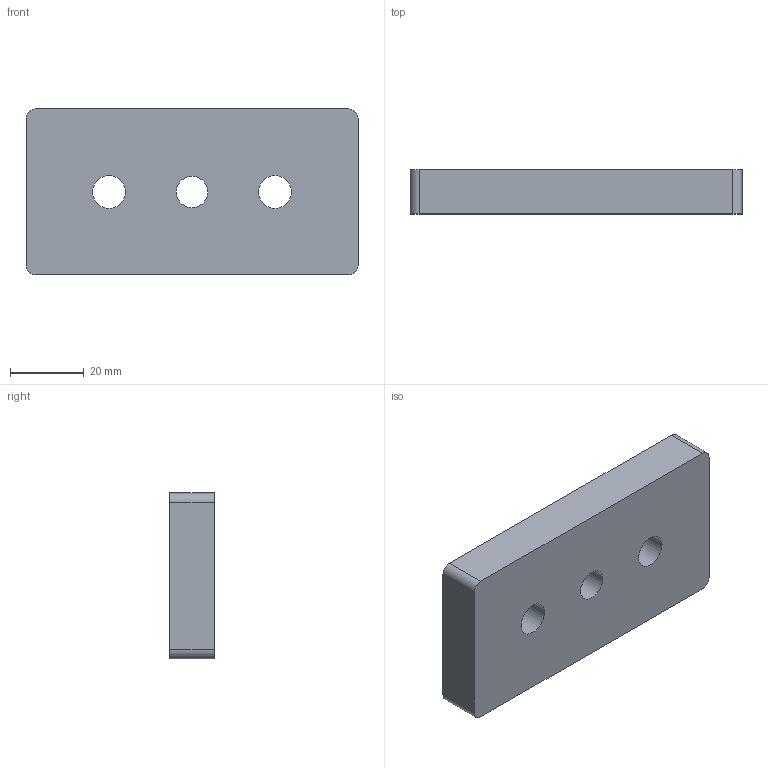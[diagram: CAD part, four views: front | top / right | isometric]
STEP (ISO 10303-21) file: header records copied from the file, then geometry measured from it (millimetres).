
FILE_DESCRIPTION(/* description */ ('STEP AP203'),/* implementation_level */ '2;1');
FILE_NAME(/* name */ 'C:\Users\Stefan.Nesic\Desktop\01010STEP\000Verifica\CORRETTI\MPT45-90M10.stp',/* time_stamp */ '2022-07-11T16:48:14+02:00',/* author */ (''),/* organization */ (''),/* preprocessor_version */ 'ST-DEVELOPER v18.1',/* originating_system */ 'Autodesk Inventor 2021',/* authorisation */ '');
FILE_SCHEMA (('AUTOMOTIVE_DESIGN { 1 0 10303 214 3 1 1 }'));
Length unit declared in the file: millimetre
Products named in the file (1): MPT45-90M10
Bounding box: 90 x 12 x 45 mm (x, y, z)
Volume: 45453.1 mm3; surface area: 12064.3 mm2
Topology: 1 solids, 1 shells, 17 faces, 39 edges, 26 vertices
Faces by surface type: cylinder 9, plane 8
Full cylindrical faces by diameter (mm): 8.5 x1, 9 x2, 13.5 x2
Entity records: 544 total; most frequent: DIRECTION 93, CARTESIAN_POINT 83, ORIENTED_EDGE 78, EDGE_CURVE 39, AXIS2_PLACEMENT_3D 36, VERTEX_POINT 26, EDGE_LOOP 25, LINE 21
